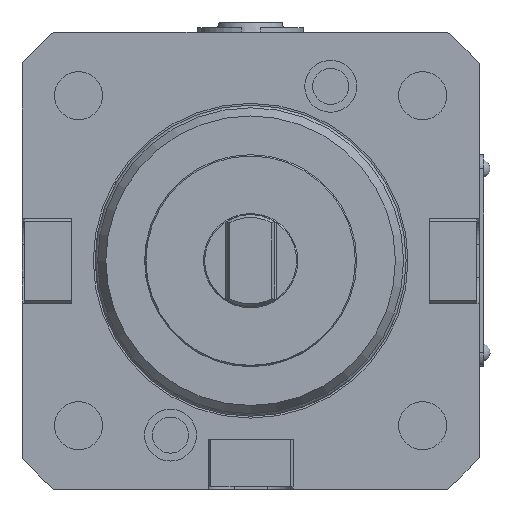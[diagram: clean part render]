
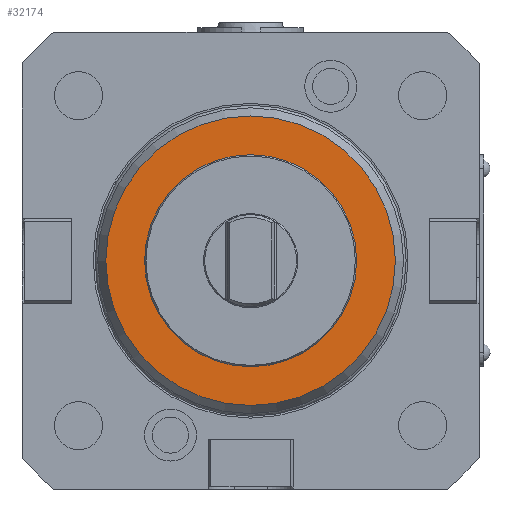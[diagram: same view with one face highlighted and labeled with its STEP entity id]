
A CAD part, left-side view. The second image highlights one B-rep face of the part: STEP entity #32174.
In plain terms, the highlighted planar face has unit normal (-1, 0, 0).
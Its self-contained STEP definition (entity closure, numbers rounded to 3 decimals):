
#16159=ORIENTED_EDGE('',*,*,#19839,.T.);
#16160=ORIENTED_EDGE('',*,*,#19840,.F.);
#18368=CIRCLE('',#31005,30.718);
#18369=CIRCLE('',#31007,22.5);
#18831=VERTEX_POINT('',#27080);
#18832=VERTEX_POINT('',#27083);
#19839=EDGE_CURVE('',#18831,#18831,#18368,.T.);
#19840=EDGE_CURVE('',#18832,#18832,#18369,.T.);
#21066=EDGE_LOOP('',(#16159));
#21067=EDGE_LOOP('',(#16160));
#21804=FACE_BOUND('',#21066,.T.);
#21805=FACE_BOUND('',#21067,.T.);
#22991=DIRECTION('',(-1.,0.,0.));
#22992=DIRECTION('',(0.,0.,30.718));
#22993=DIRECTION('',(-1.,0.,0.));
#22994=DIRECTION('',(0.,1.,0.));
#22995=DIRECTION('',(-1.,0.,0.));
#22996=DIRECTION('',(0.,0.,22.5));
#27080=CARTESIAN_POINT('',(-32.,0.,30.718));
#27081=CARTESIAN_POINT('',(-32.,0.,0.));
#27082=CARTESIAN_POINT('',(-32.,0.,30.718));
#27083=CARTESIAN_POINT('',(-32.,0.,22.5));
#27084=CARTESIAN_POINT('',(-32.,0.,0.));
#31005=AXIS2_PLACEMENT_3D('',#27081,#22991,#22992);
#31006=AXIS2_PLACEMENT_3D('',#27082,#22993,#22994);
#31007=AXIS2_PLACEMENT_3D('',#27084,#22995,#22996);
#31754=PLANE('',#31006);
#32174=ADVANCED_FACE('',(#21804,#21805),#31754,.T.);
